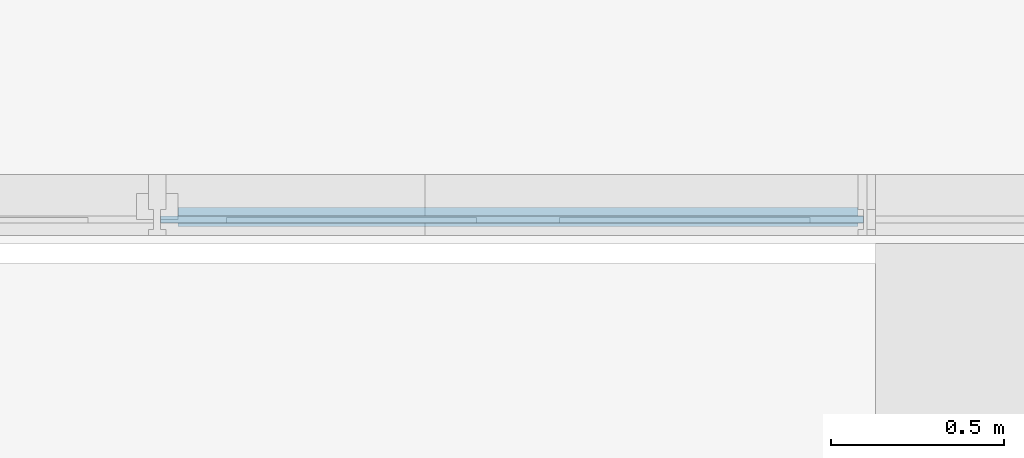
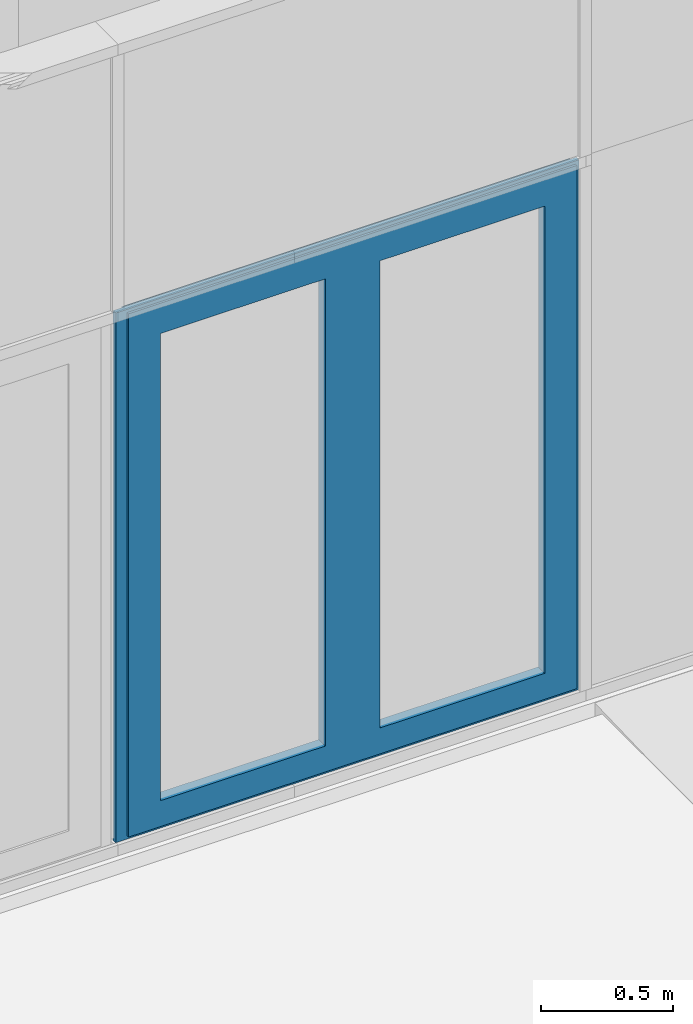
# One storey, part 21 of 69: 1 building element part, 2 elements without a shape of their own.
"""IFC2X3 building model written with IfcOpenShell, lengths in millimetres."""

from ifc_helpers import new_model, entity, si_unit, converted_unit, derived_unit, money_unit, direction, frame, origin_with_axes, place, context, subcontext, project, spatial, faceted_brep, material, type_object, element, aggregate, save


model = new_model("IFC2X3")

# Units and contexts
model_context = context("Model", 3, precision=0.01, world=origin_with_axes(), true_north=direction((0.0, 1.0)))
body_context = subcontext(model_context, "Body", "Model", "MODEL_VIEW")
ifc_project = project(units=[si_unit("LENGTHUNIT", "METRE", prefix="MILLI"), si_unit("AREAUNIT", "SQUARE_METRE"), si_unit("VOLUMEUNIT", "CUBIC_METRE"), converted_unit("PLANEANGLEUNIT", "DEGREE", entity("IfcPlaneAngleMeasure", 0.0174532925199), si_unit("PLANEANGLEUNIT", "RADIAN"), dimensions=[0, 0, 0, 0, 0, 0, 0]), si_unit("SOLIDANGLEUNIT", "STERADIAN"), money_unit("EUR"), converted_unit("TIMEUNIT", "Year", entity("IfcTimeMeasure", 31556926.0), si_unit("TIMEUNIT", "SECOND"), dimensions=[0, 0, 1, 0, 0, 0, 0]), si_unit("MASSUNIT", "GRAM", prefix="KILO"), si_unit("THERMODYNAMICTEMPERATUREUNIT", "DEGREE_CELSIUS"), si_unit("LUMINOUSINTENSITYUNIT", "LUMEN"), si_unit("ENERGYUNIT", "JOULE", prefix="MEGA"), derived_unit("THERMALCONDUCTANCEUNIT", [(si_unit("POWERUNIT", "WATT"), 1), (si_unit("LENGTHUNIT", "METRE"), -1), (si_unit("THERMODYNAMICTEMPERATUREUNIT", "KELVIN"), -1)]), derived_unit("SPECIFICHEATCAPACITYUNIT", [(si_unit("ENERGYUNIT", "JOULE"), 1), (si_unit("MASSUNIT", "GRAM", prefix="KILO"), -1), (si_unit("THERMODYNAMICTEMPERATUREUNIT", "KELVIN"), -1)]), derived_unit("MASSDENSITYUNIT", [(si_unit("MASSUNIT", "GRAM", prefix="KILO"), 1), (si_unit("VOLUMEUNIT", "CUBIC_METRE"), -1)])], contexts=[model_context])

# Site, building, storey
site_placement = place(None, origin_with_axes())
site = spatial("IfcSite", under=ifc_project, at=site_placement, Name="Puškini 31, Narva", CompositionType="ELEMENT")
building_placement = place(site_placement, origin_with_axes())
building = spatial("IfcBuilding", under=site, at=building_placement, Name="Narva Riigigümnaasium", CompositionType="ELEMENT")
storey_placement = place(building_placement, origin_with_axes())
storey = spatial("IfcBuildingStorey", under=building, at=storey_placement, Name="1.korrus 0.00", CompositionType="ELEMENT", Elevation=0.0)

# Curtain wall, door, building element part
curtain_wall_type = type_object("IfcCurtainWallType", Name="Curtain Wall Type", PredefinedType="NOTDEFINED")
curtain_wall_placement = place(storey_placement, frame((18232.2449236, 149970.00001, 0.0), z_axis=(0.0, 0.0, 1.0), x_axis=(1.0, 0.0, 0.0)))
curtain_wall = element("IfcCurtainWall", 1, at=curtain_wall_placement, inside=storey, type_object=curtain_wall_type, Name="G-KLF-01a")
door_style = type_object("IfcDoorStyle", Name="1266 x 2455 x 20", ConstructionType="NOTDEFINED", OperationType="NOTDEFINED", ParameterTakesPrecedence=False, Sizeable=False)
door_placement = place(curtain_wall_placement, frame((2047.66666498, 0.0, 1249.99998837), z_axis=(0.0, 0.0, 1.0), x_axis=(1.0, 0.0, 0.0)))
door = element("IfcDoor", 2, at=door_placement, type_object=door_style, Name="G-KLF-01-VU-01", ObjectType="DOOR")
aggregate(curtain_wall, [door])
ifc_material = material(Name="ET-04_Alumiinium")
building_element_part_placement = place(door_placement, origin_with_axes())
building_element_part = element("IfcBuildingElementPart", 3, at=building_element_part_placement, material=ifc_material, Name="ET-04_Alumiinium", context=body_context, shape_type="Brep", body=[
    faceted_brep([(-881.227943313, 35.0, -1199.99998862), (-881.227943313, 30.0, -1199.99998862), (-881.227943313, 30.0, 1224.99999921), (-881.227943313, 35.0, 1224.99999921), (-836.227943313, 35.0, -1199.99998862), (-836.227943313, 30.0, -1199.99998862), (-836.227943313, 30.0, 1179.99999921), (-836.227943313, 35.0, 1179.99999921)], [[[0, 1, 2, 3]], [[4, 5, 1, 0]], [[1, 5, 6, 2]], [[3, 2, 6, 7]], [[0, 3, 7, 4]], [[7, 6, 5, 4]]]),
    faceted_brep([(1083.77209153, 35.0, 1224.99999921), (1083.77209153, 30.0, 1224.99999921), (1038.77209153, 30.0, 1179.99999921), (1038.77209153, 35.0, 1179.99999921), (-881.227943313, 35.0, 1224.99999921), (-881.227943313, 30.0, 1224.99999921), (-836.227943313, 30.0, 1179.99999921), (-836.227943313, 35.0, 1179.99999921)], [[[0, 1, 2, 3]], [[4, 5, 1, 0]], [[1, 5, 6, 2]], [[3, 2, 6, 7]], [[0, 3, 7, 4]], [[7, 6, 5, 4]]]),
    faceted_brep([(1083.77209153, 35.0, -1199.99998862), (1083.77209153, 30.0, -1199.99998862), (1038.77209153, 30.0, -1199.99998862), (1038.77209153, 35.0, -1199.99998862), (1083.77209153, 35.0, 1224.99999921), (1083.77209153, 30.0, 1224.99999921), (1038.77209153, 30.0, 1179.99999921), (1038.77209153, 35.0, 1179.99999921)], [[[0, 1, 2, 3]], [[4, 5, 1, 0]], [[1, 5, 6, 2]], [[3, 2, 6, 7]], [[0, 3, 7, 4]], [[7, 6, 5, 4]]]),
    faceted_brep([(-881.227943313, 30.0, -1199.99998862), (-881.227943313, -20.0, -1199.99998862), (-881.227943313, -20.0, 1224.99999921), (-881.227943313, 30.0, 1224.99999921), (-861.227943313, 30.0, -1199.99998862), (-861.227943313, -20.0, -1199.99998862), (-861.227943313, -20.0, 1204.99999921), (-861.227943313, 30.0, 1204.99999921)], [[[0, 1, 2, 3]], [[4, 5, 1, 0]], [[1, 5, 6, 2]], [[3, 2, 6, 7]], [[0, 3, 7, 4]], [[7, 6, 5, 4]]]),
    faceted_brep([(1083.77209153, 30.0, 1224.99999921), (1083.77209153, -20.0, 1224.99999921), (1063.77209153, -20.0, 1204.99999921), (1063.77209153, 30.0, 1204.99999921), (-881.227943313, 30.0, 1224.99999921), (-881.227943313, -20.0, 1224.99999921), (-861.227943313, -20.0, 1204.99999921), (-861.227943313, 30.0, 1204.99999921)], [[[0, 1, 2, 3]], [[4, 5, 1, 0]], [[1, 5, 6, 2]], [[3, 2, 6, 7]], [[0, 3, 7, 4]], [[7, 6, 5, 4]]]),
    faceted_brep([(1083.77209153, 30.0, -1199.99998862), (1083.77209153, -20.0, -1199.99998862), (1063.77209153, -20.0, -1199.99998862), (1063.77209153, 30.0, -1199.99998862), (1083.77209153, 30.0, 1224.99999921), (1083.77209153, -20.0, 1224.99999921), (1063.77209153, -20.0, 1204.99999921), (1063.77209153, 30.0, 1204.99999921)], [[[0, 1, 2, 3]], [[4, 5, 1, 0]], [[1, 5, 6, 2]], [[3, 2, 6, 7]], [[0, 3, 7, 4]], [[7, 6, 5, 4]]]),
    faceted_brep([(1098.77209891, 10.0, -1214.999996), (1098.77209891, -9.99999999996, -1214.999996), (-931.227943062, -9.99999999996, -1214.999996), (-931.227943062, 10.0, -1214.999996), (1083.77209153, 10.0, -1199.99998862), (1083.77209153, -9.99999999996, -1199.99998862), (-881.227943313, -9.99999999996, -1199.99998862), (-881.227943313, 10.0, -1199.99998862)], [[[0, 1, 2, 3]], [[4, 5, 1, 0]], [[1, 5, 6, 2]], [[3, 2, 6, 7]], [[0, 3, 7, 4]], [[7, 6, 5, 4]]]),
    faceted_brep([(-931.227943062, 10.0, -1214.999996), (-931.227943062, -9.99999999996, -1214.999996), (-931.227943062, -9.99999999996, 1240.00000659), (-931.227943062, 10.0, 1240.00000659), (-881.227943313, 10.0, -1199.99998862), (-881.227943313, -9.99999999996, -1199.99998862), (-881.227943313, -9.99999999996, 1224.99999921), (-881.227943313, 10.0, 1224.99999921)], [[[0, 1, 2, 3]], [[4, 5, 1, 0]], [[1, 5, 6, 2]], [[3, 2, 6, 7]], [[0, 3, 7, 4]], [[7, 6, 5, 4]]]),
    faceted_brep([(-931.227943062, 10.0, 1240.00000659), (-931.227943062, -9.99999999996, 1240.00000659), (1098.77209891, -9.99999999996, 1240.00000659), (1098.77209891, 10.0, 1240.00000659), (-881.227943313, 10.0, 1224.99999921), (-881.227943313, -9.99999999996, 1224.99999921), (1083.77209153, -9.99999999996, 1224.99999921), (1083.77209153, 10.0, 1224.99999921)], [[[0, 1, 2, 3]], [[4, 5, 1, 0]], [[1, 5, 6, 2]], [[3, 2, 6, 7]], [[0, 3, 7, 4]], [[7, 6, 5, 4]]]),
    faceted_brep([(1098.77209891, 10.0, 1240.00000659), (1098.77209891, -9.99999999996, 1240.00000659), (1098.77209891, -9.99999999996, -1214.999996), (1098.77209891, 10.0, -1214.999996), (1083.77209153, 10.0, 1224.99999921), (1083.77209153, -9.99999999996, 1224.99999921), (1083.77209153, -9.99999999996, -1199.99998862), (1083.77209153, 10.0, -1199.99998862)], [[[0, 1, 2, 3]], [[4, 5, 1, 0]], [[1, 5, 6, 2]], [[3, 2, 6, 7]], [[0, 3, 7, 4]], [[7, 6, 5, 4]]]),
    faceted_brep([(943.772091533, 30.0, -1079.99998862), (943.772091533, -20.0, -1079.99998862), (943.772091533, -20.0, 1084.99999921), (943.772091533, 30.0, 1084.99999921), (1063.77209153, 30.0, -1199.99998862), (1063.77209153, -20.0, -1199.99998862), (1063.77209153, -20.0, 1204.99999921), (1063.77209153, 30.0, 1204.99999921)], [[[0, 1, 2, 3]], [[4, 5, 1, 0]], [[1, 5, 6, 2]], [[3, 2, 6, 7]], [[0, 3, 7, 4]], [[7, 6, 5, 4]]]),
    faceted_brep([(101.27207411, 30.0, -1199.99998862), (101.27207411, -20.0, -1199.99998862), (101.27207411, -20.0, 1204.99999921), (101.27207411, 30.0, 1204.99999921), (221.27207411, 30.0, -1079.99998862), (221.27207411, -20.0, -1079.99998862), (221.27207411, -20.0, 1084.99999921), (221.27207411, 30.0, 1084.99999921)], [[[0, 1, 2, 3]], [[4, 5, 1, 0]], [[1, 5, 6, 2]], [[3, 2, 6, 7]], [[0, 3, 7, 4]], [[7, 6, 5, 4]]]),
    faceted_brep([(101.27207411, 30.0, -1199.99998862), (101.27207411, -20.0, -1199.99998862), (221.27207411, -20.0, -1079.99998862), (221.27207411, 30.0, -1079.99998862), (1063.77209153, 30.0, -1199.99998862), (1063.77209153, -20.0, -1199.99998862), (943.772091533, -20.0, -1079.99998862), (943.772091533, 30.0, -1079.99998862)], [[[0, 1, 2, 3]], [[4, 5, 1, 0]], [[1, 5, 6, 2]], [[3, 2, 6, 7]], [[0, 3, 7, 4]], [[7, 6, 5, 4]]]),
    faceted_brep([(1063.77209153, 30.0, 1204.99999921), (1063.77209153, -20.0, 1204.99999921), (943.772091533, -20.0, 1084.99999921), (943.772091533, 30.0, 1084.99999921), (101.27207411, 30.0, 1204.99999921), (101.27207411, -20.0, 1204.99999921), (221.27207411, -20.0, 1084.99999921), (221.27207411, 30.0, 1084.99999921)], [[[0, 1, 2, 3]], [[4, 5, 1, 0]], [[1, 5, 6, 2]], [[3, 2, 6, 7]], [[0, 3, 7, 4]], [[7, 6, 5, 4]]]),
    faceted_brep([(-18.7279258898, 30.0, -1079.99998862), (-18.7279258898, -20.0, -1079.99998862), (-18.7279258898, -20.0, 1084.99999921), (-18.7279258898, 30.0, 1084.99999921), (101.27207411, 30.0, -1199.99998862), (101.27207411, -20.0, -1199.99998862), (101.27207411, -20.0, 1204.99999921), (101.27207411, 30.0, 1204.99999921)], [[[0, 1, 2, 3]], [[4, 5, 1, 0]], [[1, 5, 6, 2]], [[3, 2, 6, 7]], [[0, 3, 7, 4]], [[7, 6, 5, 4]]]),
    faceted_brep([(-861.227943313, 30.0, -1199.99998862), (-861.227943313, -20.0, -1199.99998862), (-861.227943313, -20.0, 1204.99999921), (-861.227943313, 30.0, 1204.99999921), (-741.227943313, 30.0, -1079.99998862), (-741.227943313, -20.0, -1079.99998862), (-741.227943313, -20.0, 1084.99999921), (-741.227943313, 30.0, 1084.99999921)], [[[0, 1, 2, 3]], [[4, 5, 1, 0]], [[1, 5, 6, 2]], [[3, 2, 6, 7]], [[0, 3, 7, 4]], [[7, 6, 5, 4]]]),
    faceted_brep([(-861.227943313, 30.0, -1199.99998862), (-861.227943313, -20.0, -1199.99998862), (-741.227943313, -20.0, -1079.99998862), (-741.227943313, 30.0, -1079.99998862), (101.27207411, 30.0, -1199.99998862), (101.27207411, -20.0, -1199.99998862), (-18.7279258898, -20.0, -1079.99998862), (-18.7279258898, 30.0, -1079.99998862)], [[[0, 1, 2, 3]], [[4, 5, 1, 0]], [[1, 5, 6, 2]], [[3, 2, 6, 7]], [[0, 3, 7, 4]], [[7, 6, 5, 4]]]),
    faceted_brep([(101.27207411, 30.0, 1204.99999921), (101.27207411, -20.0, 1204.99999921), (-18.7279258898, -20.0, 1084.99999921), (-18.7279258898, 30.0, 1084.99999921), (-861.227943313, 30.0, 1204.99999921), (-861.227943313, -20.0, 1204.99999921), (-741.227943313, -20.0, 1084.99999921), (-741.227943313, 30.0, 1084.99999921)], [[[0, 1, 2, 3]], [[4, 5, 1, 0]], [[1, 5, 6, 2]], [[3, 2, 6, 7]], [[0, 3, 7, 4]], [[7, 6, 5, 4]]]),
])
aggregate(door, [building_element_part])

save(model, "model.ifc")
